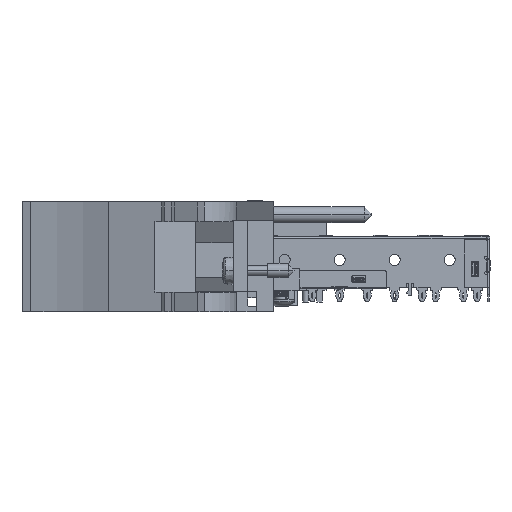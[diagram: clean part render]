
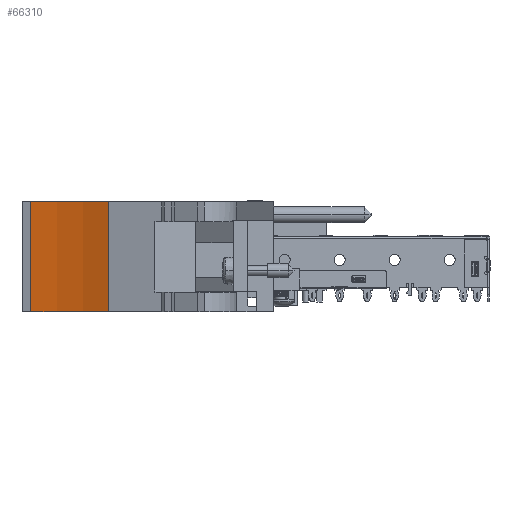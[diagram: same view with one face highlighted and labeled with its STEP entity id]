
A CAD part, front view. The second image highlights one B-rep face of the part: STEP entity #66310.
In plain terms, the highlighted cylindrical face has radius 51.46 mm (diameter 102.919 mm), a partial arc.
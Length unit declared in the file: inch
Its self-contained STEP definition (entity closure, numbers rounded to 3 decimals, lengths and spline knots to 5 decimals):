
#13540=CARTESIAN_POINT('',(-1.97678,-5.95043,0.697));
#13541=DIRECTION('',(0.,0.,1.));
#13542=DIRECTION('',(0.435,0.9,0.));
#13543=AXIS2_PLACEMENT_3D('',#13540,#13541,#13542);
#13885=CARTESIAN_POINT('',(-1.97678,-5.95043,-0.091));
#13886=DIRECTION('',(0.,0.,1.));
#13887=DIRECTION('',(0.435,0.9,0.));
#13888=AXIS2_PLACEMENT_3D('',#13885,#13886,#13887);
#14103=DIRECTION('',(0.,0.,1.));
#14104=VECTOR('',#14103,0.788);
#14105=CARTESIAN_POINT('',(-1.65345,-3.95043,-0.091));
#14106=LINE('',#14105,#14104);
#14111=DIRECTION('',(0.,0.,1.));
#14112=VECTOR('',#14111,0.788);
#14113=CARTESIAN_POINT('',(-1.09548,-4.12619,-0.091));
#14114=LINE('',#14113,#14112);
#42571=CARTESIAN_POINT('',(-1.09548,-4.12619,-0.091));
#42572=CARTESIAN_POINT('',(-1.65345,-3.95043,-0.091));
#42573=VERTEX_POINT('',#42571);
#42574=VERTEX_POINT('',#42572);
#42575=CARTESIAN_POINT('',(-1.09548,-4.12619,0.697));
#42576=CARTESIAN_POINT('',(-1.65345,-3.95043,0.697));
#42577=VERTEX_POINT('',#42575);
#42578=VERTEX_POINT('',#42576);
#66298=CARTESIAN_POINT('',(-1.97678,-5.95043,0.697));
#66299=DIRECTION('',(0.,0.,1.));
#66300=DIRECTION('',(0.,1.,0.));
#66301=AXIS2_PLACEMENT_3D('',#66298,#66299,#66300);
#66302=CYLINDRICAL_SURFACE('',#66301,2.02597);
#66303=ORIENTED_EDGE('',*,*,#66016,.T.);
#66304=ORIENTED_EDGE('',*,*,#66290,.T.);
#66305=ORIENTED_EDGE('',*,*,#65565,.F.);
#66307=ORIENTED_EDGE('',*,*,#66306,.F.);
#66308=EDGE_LOOP('',(#66303,#66304,#66305,#66307));
#66309=FACE_OUTER_BOUND('',#66308,.F.);
#66310=ADVANCED_FACE('',(#66309),#66302,.F.);
#13544=CIRCLE('',#13543,2.02597);
#13889=CIRCLE('',#13888,2.02597);
#65565=EDGE_CURVE('',#42577,#42578,#13544,.T.);
#66016=EDGE_CURVE('',#42573,#42574,#13889,.T.);
#66290=EDGE_CURVE('',#42574,#42578,#14106,.T.);
#66306=EDGE_CURVE('',#42573,#42577,#14114,.T.);
